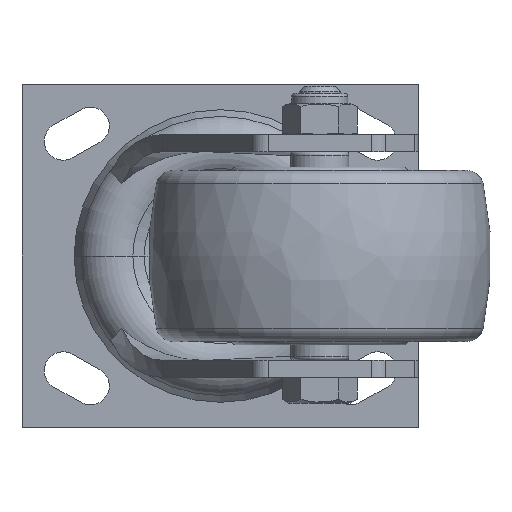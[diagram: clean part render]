
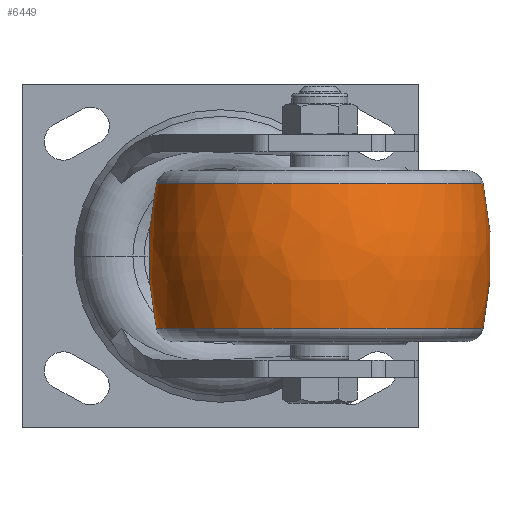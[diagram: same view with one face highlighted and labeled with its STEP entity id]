
A CAD part, front view. The second image highlights one B-rep face of the part: STEP entity #6449.
In plain terms, the highlighted free-form (B-spline) face has degree [3, 3] with [7, 4] control points.
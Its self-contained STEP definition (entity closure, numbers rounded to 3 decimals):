
#5995=CARTESIAN_POINT('',(0.,-50.,0.));
#5996=DIRECTION('',(0.,0.,1.));
#5997=DIRECTION('',(0.211,0.978,0.));
#5998=AXIS2_PLACEMENT_3D('',#5995,#5996,#5997);
#6000=CARTESIAN_POINT('',(0.,50.,0.));
#6001=DIRECTION('',(0.,0.,-1.));
#6002=DIRECTION('',(0.211,-0.978,0.));
#6003=AXIS2_PLACEMENT_3D('',#6000,#6001,#6002);
#6005=CARTESIAN_POINT('',(21.053,0.,0.));
#6006=DIRECTION('',(-1.,0.,0.));
#6007=DIRECTION('',(0.,1.,0.));
#6008=AXIS2_PLACEMENT_3D('',#6005,#6006,#6007);
#6020=CARTESIAN_POINT('',(-21.053,0.,0.));
#6021=DIRECTION('',(-1.,0.,0.));
#6022=DIRECTION('',(0.,1.,0.));
#6023=AXIS2_PLACEMENT_3D('',#6020,#6021,#6022);
#6300=CARTESIAN_POINT('',(21.053,47.759,0.));
#6301=CARTESIAN_POINT('',(-21.053,47.759,0.));
#6302=VERTEX_POINT('',#6300);
#6303=VERTEX_POINT('',#6301);
#6336=CARTESIAN_POINT('',(21.053,-47.759,
0.));
#6337=CARTESIAN_POINT('',(-21.053,-47.759,
0.));
#6338=VERTEX_POINT('',#6336);
#6339=VERTEX_POINT('',#6337);
#6412=CARTESIAN_POINT('',(-21.881,-47.483,
2.987));
#6413=CARTESIAN_POINT('',(-7.414,-50.721,
3.191));
#6414=CARTESIAN_POINT('',(7.414,-50.721,3.191));
#6415=CARTESIAN_POINT('',(21.881,-47.483,2.987));
#6416=CARTESIAN_POINT('',(-21.881,-49.321,
-26.233));
#6417=CARTESIAN_POINT('',(-7.414,-52.685,
-28.022));
#6418=CARTESIAN_POINT('',(7.414,-52.685,
-28.022));
#6419=CARTESIAN_POINT('',(21.881,-49.321,
-26.233));
#6420=CARTESIAN_POINT('',(-21.881,-29.279,
-47.577));
#6421=CARTESIAN_POINT('',(-7.414,-31.275,
-50.821));
#6422=CARTESIAN_POINT('',(7.414,-31.275,
-50.821));
#6423=CARTESIAN_POINT('',(21.881,-29.279,
-47.577));
#6424=CARTESIAN_POINT('',(-21.881,0.,
-47.577));
#6425=CARTESIAN_POINT('',(-7.414,0.,
-50.821));
#6426=CARTESIAN_POINT('',(7.414,0.,
-50.821));
#6427=CARTESIAN_POINT('',(21.881,0.,
-47.577));
#6428=CARTESIAN_POINT('',(-21.881,29.279,
-47.577));
#6429=CARTESIAN_POINT('',(-7.414,31.275,
-50.821));
#6430=CARTESIAN_POINT('',(7.414,31.275,-50.821));
#6431=CARTESIAN_POINT('',(21.881,29.279,-47.577));
#6432=CARTESIAN_POINT('',(-21.881,49.321,
-26.233));
#6433=CARTESIAN_POINT('',(-7.414,52.685,
-28.022));
#6434=CARTESIAN_POINT('',(7.414,52.685,-28.022));
#6435=CARTESIAN_POINT('',(21.881,49.321,-26.233));
#6436=CARTESIAN_POINT('',(-21.881,47.483,2.987));
#6437=CARTESIAN_POINT('',(-7.414,50.721,3.191));
#6438=CARTESIAN_POINT('',(7.414,50.721,3.191));
#6439=CARTESIAN_POINT('',(21.881,47.483,2.987));
#6440=(BOUNDED_SURFACE()B_SPLINE_SURFACE(3,3,((#6412,#6413,#6414,#6415),(#6416,
#6417,#6418,#6419),(#6420,#6421,#6422,#6423),(#6424,#6425,#6426,#6427),(#6428,
#6429,#6430,#6431),(#6432,#6433,#6434,#6435),(#6436,#6437,#6438,#6439)),
.UNSPECIFIED.,.F.,.F.,.F.)B_SPLINE_SURFACE_WITH_KNOTS((4,3,4),(4,4),(0.,1.,
2.),(0.,1.),.UNSPECIFIED.)GEOMETRIC_REPRESENTATION_ITEM()RATIONAL_B_SPLINE_SURFACE(((1.202,1.182,1.182,1.202),(
0.949,0.934,0.934,0.949),(
0.949,0.934,0.934,0.949),(
1.202,1.182,1.182,1.202),(
0.949,0.934,0.934,0.949),(
0.949,0.934,0.934,0.949),(
1.202,1.182,1.182,1.202)))REPRESENTATION_ITEM('')SURFACE());
#6441=ORIENTED_EDGE('',*,*,#6401,.T.);
#6443=ORIENTED_EDGE('',*,*,#6442,.T.);
#6444=ORIENTED_EDGE('',*,*,#6405,.F.);
#6446=ORIENTED_EDGE('',*,*,#6445,.F.);
#6447=EDGE_LOOP('',(#6441,#6443,#6444,#6446));
#6448=FACE_OUTER_BOUND('',#6447,.F.);
#5999=CIRCLE('',#5998,100.);
#6004=CIRCLE('',#6003,100.);
#6009=CIRCLE('',#6008,47.759);
#6024=CIRCLE('',#6023,47.759);
#6401=EDGE_CURVE('',#6302,#6303,#5999,.T.);
#6405=EDGE_CURVE('',#6338,#6339,#6004,.T.);
#6442=EDGE_CURVE('',#6303,#6339,#6024,.T.);
#6445=EDGE_CURVE('',#6302,#6338,#6009,.T.);
#6449=ADVANCED_FACE('',(#6448),#6440,.T.);
